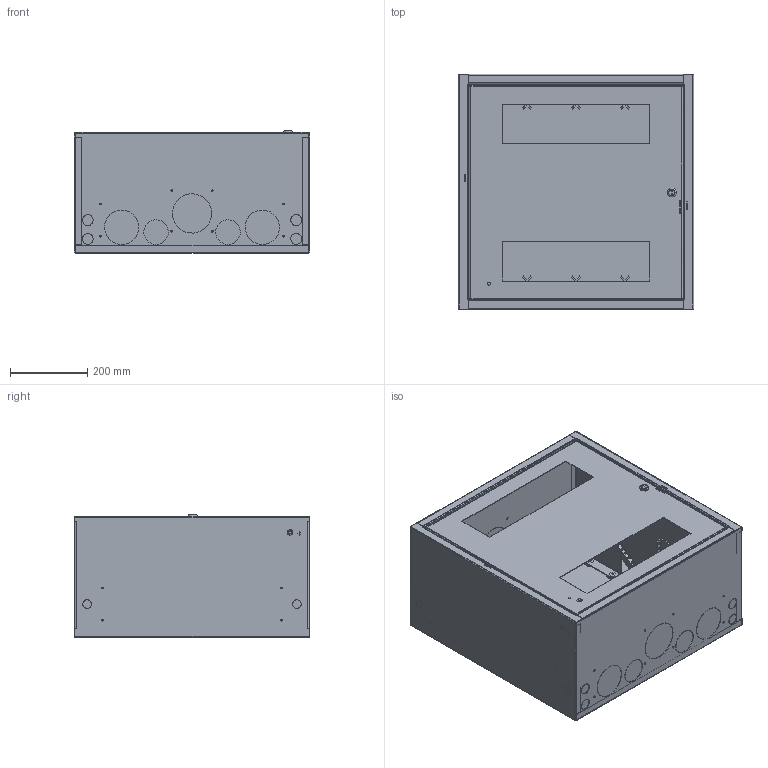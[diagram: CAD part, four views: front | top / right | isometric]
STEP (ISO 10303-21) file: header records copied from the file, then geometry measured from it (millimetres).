
FILE_DESCRIPTION((''),'2;1');
FILE_NAME('/scratch/dolphin/hdelal/dbs242412g.stp', '2005-03-28T07:55:09',('User'),('SDRC'),'I-DEAS Master Series 9','UNIX', 'Yes');
FILE_SCHEMA(('AUTOMOTIVE_DESIGN { 1 0 10303 214 0 1 1 1 }'));
Length unit declared in the file: inch
Products named in the file (18): 87783708; 87789066; 87789052; 60100041; 87789051; 87783741; 87783743; 87783745; 87783749; 87783751; 87783747; 87783735; networking_latch_sa; latch_nut; latch_washer; cam; latch
Assembly tree (20 placements, depth 4):
  87783708
    87789066
      87789052  x2
      60100041  x2
      87789051
    87783741
    87783743
    87783745
    87783749
    87783751
    87783747
    87783735
      87783735
      60100041
      networking_latch_sa
        latch_nut
        latch_washer
        cam
        latch
Bounding box: 611.07 x 609.6 x 316.74 mm (x, y, z)
Volume: 2538602.1 mm3; surface area: 3357250.9 mm2
Topology: 17 solids, 17 shells, 1130 faces, 3031 edges, 1971 vertices
Faces by surface type: bspline 1130
Entity records: 33524 total; most frequent: CARTESIAN_POINT 15997, ORIENTED_EDGE 5492, EDGE_CURVE 2746, VERTEX_POINT 1783, QUASI_UNIFORM_CURVE 1359, EDGE_LOOP 1299, FACE_OUTER_BOUND 1004, ADVANCED_FACE 1004
